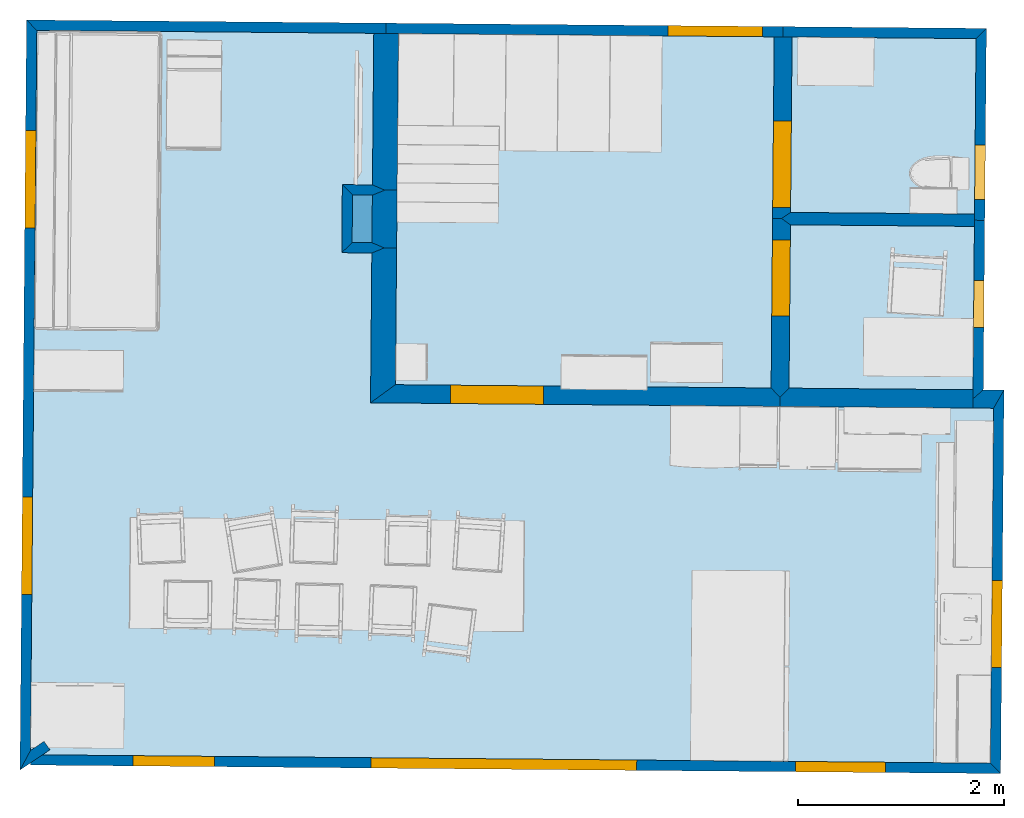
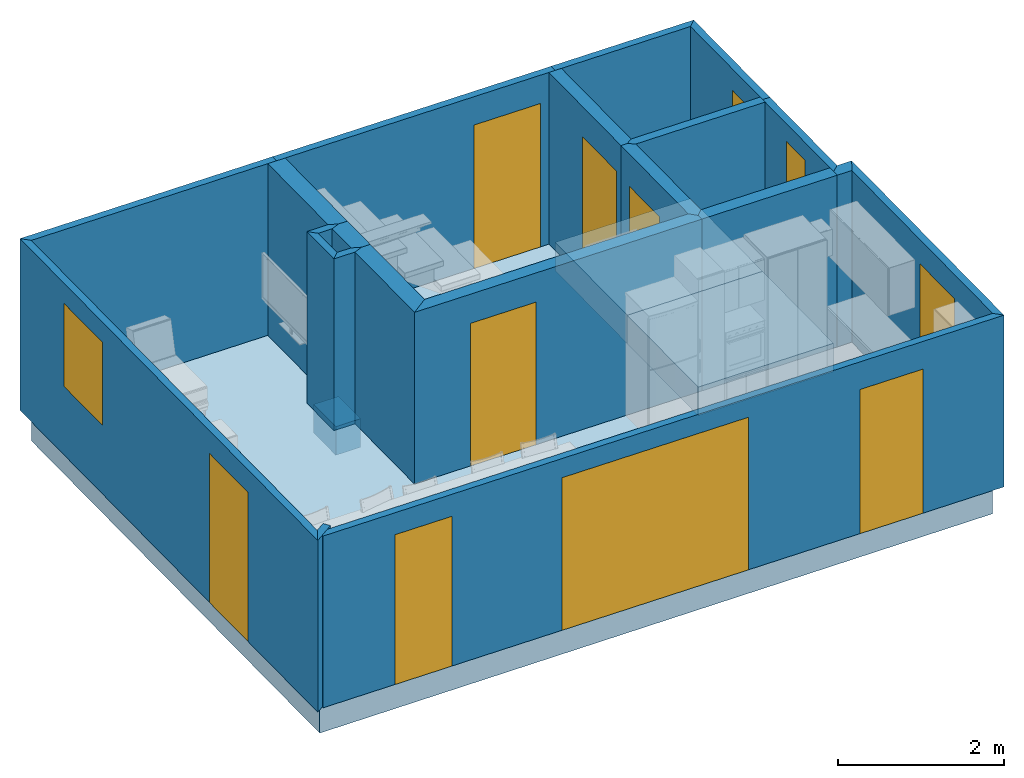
# One storey, part 1 of 7: 21 walls, 8 doors, 5 slabs, 4 windows, 12 openings.
"""IFC4 building model written with IfcOpenShell, lengths in metres."""

from ifc_helpers import new_model, si_unit, direction, frame, origin_with_axes, place, context, subcontext, project, spatial, polyline, outline, extrude, type_object, element, fill, save


model = new_model("IFC4")

# Units and contexts
model_context = context("Model", 3, precision=1e-05, world=origin_with_axes(), true_north=direction((-0.077, 0.997, 0.0)))
body_context = subcontext(model_context, "Body", "Model", "MODEL_VIEW")
ifc_project = project(units=[si_unit("AREAUNIT", "SQUARE_METRE"), si_unit("LENGTHUNIT", "METRE")], contexts=[model_context])

# Site, building, storey
site_placement = place(None, origin_with_axes())
site = spatial("IfcSite", under=ifc_project, at=site_placement, Name="Site", CompositionType="ELEMENT")
building_placement = place(site_placement, origin_with_axes())
building = spatial("IfcBuilding", under=site, at=building_placement, Name="Building", CompositionType="ELEMENT")
storey_placement = place(building_placement, frame((0.0, 0.0, 2.86083245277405), z_axis=(0.0, 0.0, 1.0), x_axis=(1.0, 0.0, 0.0)))
storey = spatial("IfcBuildingStorey", under=building, at=storey_placement, Name="Story 1", CompositionType="ELEMENT", Elevation=2.86083245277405)

# Slabs
slab_type_1 = type_object("IfcSlabType", Name="Metaroom Slab", PredefinedType="FLOOR")
slab_1_placement = place(storey_placement, frame((1.41507131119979, -0.220794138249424, 0.0), z_axis=(0.0, 0.0, 1.0), x_axis=(1.0, 0.0, 0.0)))
element("IfcSlab", 1, at=slab_1_placement, inside=storey, type_object=slab_type_1, Name="Floor", PredefinedType="FLOOR", context=body_context, shape_type="SweptSolid", body=[
    extrude(outline(polyline([(0.0, 0.0), (0.00359290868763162, 0.539988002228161), (-0.341366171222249, 0.547283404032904), (-0.344992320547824, 0.00229546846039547), (0.0, 0.0)])), origin_with_axes(), (0.0, 0.0, -1.0), 0.421469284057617),
])
slab_type_2 = type_object("IfcSlabType", Name="Metaroom Slab", PredefinedType="FLOOR")
slab_2_placement = place(storey_placement, frame((7.15088241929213, -1.70053368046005, 0.0), z_axis=(0.0, 0.0, 1.0), x_axis=(1.0, 0.0, 0.0)))
element("IfcSlab", 2, at=slab_2_placement, inside=storey, type_object=slab_type_2, Name="Floor", PredefinedType="FLOOR", context=body_context, shape_type="SweptSolid", body=[
    extrude(outline(polyline([(0.0, 0.0), (-1.87724575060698, 0.0164927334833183), (-1.86196827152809, 1.75542216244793), (0.0152769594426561, 1.73892954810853), (0.0, 0.0)])), origin_with_axes(), (0.0, 0.0, -1.0), 0.421469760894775),
])
slab_type_3 = type_object("IfcSlabType", Name="Metaroom Slab", PredefinedType="FLOOR")
slab_3_placement = place(storey_placement, frame((-2.020659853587, -5.18304387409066, 0.0), z_axis=(0.0, 0.0, 1.0), x_axis=(1.0, 0.0, 0.0)))
element("IfcSlab", 3, at=slab_3_placement, inside=storey, type_object=slab_type_3, Name="Floor", PredefinedType="FLOOR", context=body_context, shape_type="SweptSolid", body=[
    extrude(outline(polyline([(0.0, 0.0), (0.0621035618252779, 7.06900282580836), (3.46170130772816, 7.03913605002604), (3.44830367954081, 5.51416778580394), (3.08520798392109, 5.51735784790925), (3.08026745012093, 4.95501735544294), (3.44336344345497, 4.95182727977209), (3.43089771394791, 3.53294421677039), (7.29429689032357, 3.4990026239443), (9.17154227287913, 3.48251019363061), (9.37355731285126, 3.48073588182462), (9.34243122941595, -0.0621608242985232), (0.0, 0.0)])), origin_with_axes(), (0.0, 0.0, -1.0), 0.421469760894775),
])
slab_type_4 = type_object("IfcSlabType", Name="Metaroom Slab", PredefinedType="FLOOR")
slab_4_placement = place(storey_placement, frame((7.18168592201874, 1.80565772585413, 0.0), z_axis=(0.0, 0.0, 1.0), x_axis=(1.0, 0.0, 0.0)))
element("IfcSlab", 4, at=slab_4_placement, inside=storey, type_object=slab_type_4, Name="Floor", PredefinedType="FLOOR", context=body_context, shape_type="SweptSolid", body=[
    extrude(outline(polyline([(0.0, 0.0), (-0.0155265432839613, -1.76726185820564), (-1.8927717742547, -1.75076924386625), (-1.87724553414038, 0.0164922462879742), (0.0, 0.0)])), origin_with_axes(), (0.0, 0.0, -1.0), 0.421469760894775),
])
slab_type_5 = type_object("IfcSlabType", Name="Metaroom Slab", PredefinedType="FLOOR")
slab_5_placement = place(storey_placement, frame((5.27363703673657, -1.68404125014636, 0.0), z_axis=(0.0, 0.0, 1.0), x_axis=(1.0, 0.0, 0.0)))
element("IfcSlab", 5, at=slab_5_placement, inside=storey, type_object=slab_type_5, Name="Floor", PredefinedType="FLOOR", context=body_context, shape_type="SweptSolid", body=[
    extrude(outline(polyline([(0.0, 0.0), (-3.86339891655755, 0.0339415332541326), (-3.8509334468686, 1.45282465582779), (-3.8459930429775, 2.01516517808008), (-3.8325955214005, 3.54013306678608), (0.0308034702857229, 3.5061917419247), (0.0152771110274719, 1.73892973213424), (0.0, 0.0)])), origin_with_axes(), (0.0, 0.0, -1.0), 0.421469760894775),
])

# Walls
wall_type_1 = type_object("IfcWallType", Name="Metaroom Wall", PredefinedType="STANDARD")
wall_1_placement = place(storey_placement, frame((1.30689226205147, 0.282182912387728, 0.0), z_axis=(0.0, 0.0, 1.0), x_axis=(1.0, 0.0, 0.0)))
element("IfcWallStandardCase", 6, at=wall_1_placement, inside=storey, type_object=wall_type_1, Name="Wall", context=body_context, shape_type="SweptSolid", body=[
    extrude(outline(polyline([(0.0, 0.0), (0.120751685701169, 0.0489410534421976), (0.241064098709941, 0.0478840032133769), (0.236123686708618, -0.514456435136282), (0.115811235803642, -0.513399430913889), (-0.00406193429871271, -0.46234440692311), (0.0, 0.0)])), origin_with_axes(), (0.0, 0.0, 1.0), 2.52995562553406),
])
wall_type_2 = type_object("IfcWallType", Name="Metaroom Wall", PredefinedType="STANDARD")
wall_2_placement = place(storey_placement, frame((1.11410686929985, 0.283876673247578, 0.0), z_axis=(0.0, 0.0, 1.0), x_axis=(1.0, 0.0, 0.0)))
element("IfcWallStandardCase", 7, at=wall_2_placement, inside=storey, type_object=wall_type_2, Name="Wall", context=body_context, shape_type="SweptSolid", body=[
    extrude(outline(polyline([(0.0, 0.0), (-0.0991176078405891, 0.100874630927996), (0.193663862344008, 0.0983023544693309), (0.31353707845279, 0.0472472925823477), (0.192785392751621, -0.00169376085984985), (0.0, 0.0)])), origin_with_axes(), (0.0, 0.0, 1.0), 2.52995562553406),
])
wall_type_3 = type_object("IfcWallType", Name="Metaroom Wall", PredefinedType="STANDARD")
wall_3_placement = place(storey_placement, frame((1.00917028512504, -0.277585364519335, 0.0), z_axis=(0.0, 0.0, 1.0), x_axis=(1.0, 0.0, 0.0)))
element("IfcWallStandardCase", 8, at=wall_3_placement, inside=storey, type_object=wall_type_3, Name="Wall", context=body_context, shape_type="SweptSolid", body=[
    extrude(outline(polyline([(0.0, 0.0), (0.100874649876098, 0.099117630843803), (0.293660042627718, 0.0974238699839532), (0.413533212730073, 0.0463688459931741), (0.292781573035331, -0.0025722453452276), (0.0, 0.0)])), origin_with_axes(), (0.0, 0.0, 1.0), 2.52995562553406),
])
wall_type_4 = type_object("IfcWallType", Name="Metaroom Wall", PredefinedType="STANDARD")
wall_4_placement = place(storey_placement, frame((1.01498926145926, 0.384751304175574, 0.0), z_axis=(0.0, 0.0, 1.0), x_axis=(1.0, 0.0, 0.0)))
element("IfcWallStandardCase", 9, at=wall_4_placement, inside=storey, type_object=wall_type_4, Name="Wall", context=body_context, shape_type="SweptSolid", body=[
    extrude(outline(polyline([(0.0, 0.0), (0.0991176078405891, -0.100874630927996), (0.0950556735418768, -0.563219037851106), (-0.00581897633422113, -0.662336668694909), (0.0, 0.0)])), origin_with_axes(), (0.0, 0.0, 1.0), 2.52995562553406),
])

# Wall, opening, window
wall_type_5 = type_object("IfcWallType", Name="Metaroom Wall", PredefinedType="STANDARD")
wall_5_placement = place(storey_placement, frame((7.16562975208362, -0.0219311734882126, 0.0), z_axis=(0.0, 0.0, 1.0), x_axis=(1.0, 0.0, 0.0)))
wall_5 = element("IfcWallStandardCase", 10, at=wall_5_placement, inside=storey, type_object=wall_type_5, Name="Wall", context=body_context, shape_type="SweptSolid", body=[
    extrude(outline(polyline([(0.0, 0.0), (0.000529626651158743, 0.0603270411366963), (0.100525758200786, 0.0594484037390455), (0.0860331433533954, -1.59021256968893), (-0.0147473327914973, -1.67860250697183), (-0.0139631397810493, -1.58933411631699), (0.0, 0.0)])), origin_with_axes(), (0.0, 0.0, 1.0), 2.52995562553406),
])
opening_1_placement = place(wall_5_placement, frame((-0.00461401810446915, -0.525186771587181, 1.23602041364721), z_axis=(0.0, 0.0, 1.0), x_axis=(-0.00878509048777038, -0.999961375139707, 0.0)))
opening_1 = element("IfcOpeningElement", 11, at=opening_1_placement, cuts=wall_5, Name="Metaroom Opening", ObjectType="OPENING", context=body_context, shape_type="SweptSolid", body=[
    extrude(outline(polyline([(2.77555756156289e-17, 0.0), (0.458121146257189, 0.0), (0.458121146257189, 1.03326327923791), (2.77555756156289e-17, 1.03326327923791), (2.77555756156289e-17, 0.0)])), frame((0.0, 0.0, 0.0), z_axis=(0.0, -1.0, 0.0), x_axis=(1.0, 0.0, 0.0)), (0.0, 0.0, -1.0), 0.100099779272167),
])
window_type_1 = type_object("IfcWindowType", Name="Metaroom Window area", PredefinedType="WINDOW")
window_1_placement = place(opening_1_placement, origin_with_axes())
window_1 = element("IfcWindow", 12, at=window_1_placement, inside=storey, type_object=window_type_1, Name="Metaroom Window area", OverallHeight=1.5, OverallWidth=0.5, context=body_context, shape_type="SweptSolid", body=[
    extrude(outline(polyline([(-1.38777878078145e-17, 0.0), (-0.458121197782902, 0.0), (-0.458121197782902, 1.03326320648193), (-1.38777878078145e-17, 1.03326320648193), (-1.38777878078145e-17, 0.0)])), frame((0.0, 0.0999997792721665, 0.0), z_axis=(0.0, 1.0, 0.0), x_axis=(-1.0, 0.0, 0.0)), (0.0, 0.0, -1.0), 0.0999997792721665),
])
fill(opening_1, window_1)

# Walls
wall_type_6 = type_object("IfcWallType", Name="Metaroom Wall", PredefinedType="STANDARD")
wall_6_placement = place(storey_placement, frame((5.37554279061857, -0.00620450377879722, 0.0), z_axis=(0.0, 0.0, 1.0), x_axis=(1.0, 0.0, 0.0)))
element("IfcWallStandardCase", 13, at=wall_6_placement, inside=storey, type_object=wall_type_6, Name="Wall", context=body_context, shape_type="SweptSolid", body=[
    extrude(outline(polyline([(0.0, 0.0), (-0.0866286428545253, 0.0610929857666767), (0.00105977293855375, 0.12065396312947), (1.7911465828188, 0.104927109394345), (1.79061658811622, 0.0446003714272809), (1.79008696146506, -0.0157266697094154), (0.0, 0.0)])), origin_with_axes(), (0.0, 0.0, 1.0), 2.52995562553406),
])
wall_type_7 = type_object("IfcWallType", Name="Metaroom Wall", PredefinedType="STANDARD")
wall_7_placement = place(storey_placement, frame((5.2728524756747, -1.77330933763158, 0.0), z_axis=(0.0, 0.0, 1.0), x_axis=(1.0, 0.0, 0.0)))
element("IfcWallStandardCase", 14, at=wall_7_placement, inside=storey, type_object=wall_type_7, Name="Wall", context=body_context, shape_type="SweptSolid", body=[
    extrude(outline(polyline([(0.0, 0.0), (0.000784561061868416, 0.0892680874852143), (0.0887271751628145, 0.177770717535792), (1.87881413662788, 0.162044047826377), (1.87802994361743, 0.0727756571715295), (1.87724575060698, -0.0164927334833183), (0.0, 0.0)])), origin_with_axes(), (0.0, 0.0, 1.0), 2.52995562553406),
])

# Wall, opening, door
wall_type_8 = type_object("IfcWallType", Name="Metaroom Wall", PredefinedType="STANDARD")
wall_8_placement = place(storey_placement, frame((5.20175591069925, 0.0556540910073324, 0.0), z_axis=(0.0, 0.0, 1.0), x_axis=(1.0, 0.0, 0.0)))
wall_8 = element("IfcWallStandardCase", 15, at=wall_8_placement, inside=storey, type_object=wall_type_8, Name="Wall", context=body_context, shape_type="SweptSolid", body=[
    extrude(outline(polyline([(0.0, 0.0), (0.0871582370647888, -0.000765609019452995), (0.173786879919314, -0.0618585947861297), (0.159823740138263, -1.65119271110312), (0.0718811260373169, -1.7396953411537), (-0.0144931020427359, -1.64966118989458), (0.0, 0.0)])), origin_with_axes(), (0.0, 0.0, 1.0), 2.52995562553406),
])
opening_2_placement = place(wall_8_placement, frame((-0.00184058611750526, -0.209506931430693, 0.0), z_axis=(0.0, 0.0, 1.0), x_axis=(-0.00878513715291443, -0.999961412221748, 0.0)))
opening_2 = element("IfcOpeningElement", 16, at=opening_2_placement, cuts=wall_8, Name="Metaroom Opening", ObjectType="OPENING", context=body_context, shape_type="SweptSolid", body=[
    extrude(outline(polyline([(6.93889390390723e-18, 0.0), (0.740227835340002, 0.0), (0.740227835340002, 2.05555700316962), (6.93889390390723e-18, 2.05555700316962), (6.93889390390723e-18, 0.0)])), frame((0.0, 0.0, 0.0), z_axis=(0.0, -1.0, 0.0), x_axis=(1.0, 0.0, 0.0)), (0.0, 0.0, -1.0), 0.174423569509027),
])
door_type_1 = type_object("IfcDoorType", Name="Metaroom Door area", PredefinedType="DOOR")
door_1_placement = place(opening_2_placement, origin_with_axes())
door_1 = element("IfcDoor", 17, at=door_1_placement, inside=storey, type_object=door_type_1, Name="Metaroom Door area", OverallHeight=2.05555605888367, OverallWidth=0.740227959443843, context=body_context, shape_type="SweptSolid", body=[
    extrude(outline(polyline([(-6.93889390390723e-18, 0.0), (-0.740227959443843, 0.0), (-0.740227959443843, 2.05555701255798), (-6.93889390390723e-18, 2.05555701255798), (-6.93889390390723e-18, 0.0)])), frame((0.0, 0.174323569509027, 0.0), z_axis=(0.0, 1.0, 0.0), x_axis=(-1.0, 0.0, 0.0)), (0.0, 0.0, -1.0), 0.174323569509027),
])
fill(opening_2, door_1)

# Wall
wall_type_9 = type_object("IfcWallType", Name="Metaroom Wall", PredefinedType="STANDARD")
wall_9_placement = place(storey_placement, frame((-2.12179674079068, -5.31203737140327, 0.0), z_axis=(0.0, 0.0, 1.0), x_axis=(1.0, 0.0, 0.0)))
element("IfcWallStandardCase", 18, at=wall_9_placement, inside=storey, type_object=wall_type_9, Name="Wall", context=body_context, shape_type="SweptSolid", body=[
    extrude(outline(polyline([(0.0, 0.0), (0.101670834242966, 0.189767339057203), (0.234348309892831, 0.279737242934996), (0.290472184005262, 0.196971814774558), (0.0, 0.0)])), origin_with_axes(), (0.0, 0.0, 1.0), 2.52995562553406),
])

# Wall, opening, door
wall_type_10 = type_object("IfcWallType", Name="Metaroom Wall", PredefinedType="STANDARD")
wall_10_placement = place(storey_placement, frame((1.28914123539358, -1.73831102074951, 0.0), z_axis=(0.0, 0.0, 1.0), x_axis=(1.0, 0.0, 0.0)))
wall_10 = element("IfcWallStandardCase", 19, at=wall_10_placement, inside=storey, type_object=wall_type_10, Name="Wall", context=body_context, shape_type="SweptSolid", body=[
    extrude(outline(polyline([(0.0, 0.0), (0.24219350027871, 0.176422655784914), (3.89812157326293, 0.144303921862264), (3.98449580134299, 0.054269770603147), (3.98371124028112, -0.0349983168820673), (0.0, 0.0)])), origin_with_axes(), (0.0, 0.0, 1.0), 2.52995562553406),
])
opening_3_placement = place(wall_10_placement, frame((0.777083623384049, -0.00682683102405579, 0.0), z_axis=(0.0, 0.0, 1.0), x_axis=(0.999961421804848, -0.00878505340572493, 0.0)))
opening_3 = element("IfcOpeningElement", 20, at=opening_3_placement, cuts=wall_10, Name="Metaroom Opening", ObjectType="OPENING", context=body_context, shape_type="SweptSolid", body=[
    extrude(outline(polyline([(-4.44089209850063e-16, 0.0), (0.906086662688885, 0.0), (0.906086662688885, 2.10004301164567), (-4.44089209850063e-16, 2.10004301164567), (-4.44089209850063e-16, 0.0)])), frame((0.0, 0.0, 0.0), z_axis=(0.0, -1.0, 0.0), x_axis=(1.0, 0.0, 0.0)), (0.0, 0.0, -1.0), 0.178643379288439),
])
door_type_2 = type_object("IfcDoorType", Name="Metaroom Door area", PredefinedType="DOOR")
door_2_placement = place(opening_3_placement, origin_with_axes())
door_2 = element("IfcDoor", 21, at=door_2_placement, inside=storey, type_object=door_type_2, Name="Metaroom Door area", OverallHeight=2.10004305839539, OverallWidth=0.906086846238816, context=body_context, shape_type="SweptSolid", body=[
    extrude(outline(polyline([(0.0, 0.0), (-0.906086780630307, 0.0), (-0.906086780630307, 2.10004305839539), (0.0, 2.10004305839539), (0.0, 0.0)])), frame((0.0, 0.178543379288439, 0.0), z_axis=(0.0, 1.0, 0.0), x_axis=(-1.0, 0.0, 0.0)), (0.0, 0.0, -1.0), 0.178543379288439),
])
fill(opening_3, door_2)

# Walls
wall_type_11 = type_object("IfcWallType", Name="Metaroom Wall", PredefinedType="STANDARD")
wall_11_placement = place(storey_placement, frame((7.15009822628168, -1.7898020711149, 0.0), z_axis=(0.0, 0.0, 1.0), x_axis=(1.0, 0.0, 0.0)))
element("IfcWallStandardCase", 22, at=wall_11_placement, inside=storey, type_object=wall_type_11, Name="Wall", context=body_context, shape_type="SweptSolid", body=[
    extrude(outline(polyline([(0.0, 0.0), (0.000784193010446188, 0.0892683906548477), (0.101564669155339, 0.177658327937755), (0.303579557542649, 0.17588383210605), (0.202014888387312, -0.00177449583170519), (0.0, 0.0)])), origin_with_axes(), (0.0, 0.0, 1.0), 2.52995562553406),
])
wall_type_12 = type_object("IfcWallType", Name="Metaroom Wall", PredefinedType="STANDARD")
wall_12_placement = place(storey_placement, frame((1.32072904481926, 1.85714891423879, 0.0), z_axis=(0.0, 0.0, 1.0), x_axis=(1.0, 0.0, 0.0)))
element("IfcWallStandardCase", 23, at=wall_12_placement, inside=storey, type_object=wall_type_12, Name="Wall", context=body_context, shape_type="SweptSolid", body=[
    extrude(outline(polyline([(0.0, 0.0), (0.120312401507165, -0.00105704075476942), (0.240624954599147, -0.00211389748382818), (0.227227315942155, -1.52708199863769), (0.106914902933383, -1.52602494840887), (-0.0129583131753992, -1.47496988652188), (0.0, 0.0)])), origin_with_axes(), (0.0, 0.0, 1.0), 2.52995562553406),
])

# Wall, opening, window
wall_type_13 = type_object("IfcWallType", Name="Metaroom Wall", PredefinedType="STANDARD")
wall_13_placement = place(storey_placement, frame((7.35211311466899, -1.7915765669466, 0.0), z_axis=(0.0, 0.0, 1.0), x_axis=(1.0, 0.0, 0.0)))
wall_13 = element("IfcWallStandardCase", 24, at=wall_13_placement, inside=storey, type_object=wall_type_13, Name="Wall", context=body_context, shape_type="SweptSolid", body=[
    extrude(outline(polyline([(0.0, 0.0), (0.101564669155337, 0.177658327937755), (0.0687757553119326, -3.55450290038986), (-0.0303418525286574, -3.45362826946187), (0.0, 0.0)])), origin_with_axes(), (0.0, 0.0, 1.0), 2.52995562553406),
])
opening_4_placement = place(wall_13_placement, frame((-0.01472561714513, -1.6761281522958, 1.06846022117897), z_axis=(0.0, 0.0, 1.0), x_axis=(-0.00878513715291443, -0.999961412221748, 0.0)))
opening_4 = element("IfcOpeningElement", 25, at=opening_4_placement, cuts=wall_13, Name="Metaroom Opening", ObjectType="OPENING", context=body_context, shape_type="SweptSolid", body=[
    extrude(outline(polyline([(1.11022302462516e-16, 0.0), (0.844886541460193, 0.0), (0.844886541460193, 1.10469340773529), (1.11022302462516e-16, 1.10469340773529), (1.11022302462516e-16, 0.0)])), frame((0.0, 0.0, 0.0), z_axis=(0.0, -1.0, 0.0), x_axis=(1.0, 0.0, 0.0)), (0.0, 0.0, -1.0), 0.100099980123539),
])
window_type_2 = type_object("IfcWindowType", Name="Metaroom Window area", PredefinedType="WINDOW")
window_2_placement = place(opening_4_placement, origin_with_axes())
window_2 = element("IfcWindow", 26, at=window_2_placement, inside=storey, type_object=window_type_2, Name="Metaroom Window area", OverallHeight=1.5, OverallWidth=0.5, context=body_context, shape_type="SweptSolid", body=[
    extrude(outline(polyline([(2.77555756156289e-17, 0.0), (-0.844886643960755, 0.0), (-0.844886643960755, 1.10469341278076), (2.77555756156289e-17, 1.10469341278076), (2.77555756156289e-17, 0.0)])), frame((0.0, 0.0999999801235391, 0.0), z_axis=(0.0, 1.0, 0.0), x_axis=(-1.0, 0.0, 0.0)), (0.0, 0.0, -1.0), 0.0999999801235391),
])
fill(opening_4, window_2)

# Wall, openings, door, window
wall_type_14 = type_object("IfcWallType", Name="Metaroom Wall", PredefinedType="STANDARD")
wall_14_placement = place(storey_placement, frame((-2.05767371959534, 1.98683380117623, 0.0), z_axis=(0.0, 0.0, 1.0), x_axis=(1.0, 0.0, 0.0)))
wall_14 = element("IfcWallStandardCase", 27, at=wall_14_placement, inside=storey, type_object=wall_type_14, Name="Wall", context=body_context, shape_type="SweptSolid", body=[
    extrude(outline(polyline([(0.0, 0.0), (0.0991176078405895, -0.100874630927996), (0.0375478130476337, -7.10910383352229), (-0.0641230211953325, -7.2988711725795), (0.0, 0.0)])), origin_with_axes(), (0.0, 0.0, 1.0), 2.52995562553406),
])
opening_5_placement = place(wall_14_placement, frame((0.0508818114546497, -5.59135571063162, 0.0), z_axis=(0.0, 0.0, 1.0), x_axis=(0.00878500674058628, 0.999961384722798, 0.0)))
opening_5 = element("IfcOpeningElement", 28, at=opening_5_placement, cuts=wall_14, Name="Metaroom Opening", ObjectType="OPENING", context=body_context, shape_type="SweptSolid", body=[
    extrude(outline(polyline([(-7.28583859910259e-17, 0.0), (0.94779187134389, 0.0), (0.94779187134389, 2.19479930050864), (-7.28583859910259e-17, 2.19479930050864), (-7.28583859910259e-17, 0.0)])), frame((0.0, 0.0, 0.0), z_axis=(0.0, -1.0, 0.0), x_axis=(1.0, 0.0, 0.0)), (0.0, 0.0, -1.0), 0.100099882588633),
])
opening_6_placement = place(wall_14_placement, frame((0.0822000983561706, -2.02651835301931, 1.00922828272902), z_axis=(0.0, 0.0, 1.0), x_axis=(0.00878500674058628, 0.999961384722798, 0.0)))
opening_6 = element("IfcOpeningElement", 29, at=opening_6_placement, cuts=wall_14, Name="Metaroom Opening", ObjectType="OPENING", context=body_context, shape_type="SweptSolid", body=[
    extrude(outline(polyline([(-3.46944695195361e-18, 0.0), (0.951704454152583, 0.0), (0.951704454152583, 1.22256166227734), (-3.46944695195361e-18, 1.22256166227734), (-3.46944695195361e-18, 0.0)])), frame((0.0, 0.0, 0.0), z_axis=(0.0, -1.0, 0.0), x_axis=(1.0, 0.0, 0.0)), (0.0, 0.0, -1.0), 0.100099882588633),
])
door_type_3 = type_object("IfcDoorType", Name="Metaroom Door area", PredefinedType="DOOR")
door_3_placement = place(opening_5_placement, origin_with_axes())
door_3 = element("IfcDoor", 30, at=door_3_placement, inside=storey, type_object=door_type_3, Name="Metaroom Door area", OverallHeight=2.19479918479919, OverallWidth=0.947791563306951, context=body_context, shape_type="SweptSolid", body=[
    extrude(outline(polyline([(-2.04697370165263e-16, 0.0), (-0.947791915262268, 0.0), (-0.947791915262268, 2.19479918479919), (-2.04697370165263e-16, 2.19479918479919), (-2.04697370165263e-16, 0.0)])), frame((0.0, 0.0999998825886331, 0.0), z_axis=(0.0, 1.0, 0.0), x_axis=(-1.0, 0.0, 0.0)), (0.0, 0.0, -1.0), 0.0999998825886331),
])
fill(opening_5, door_3)
window_type_3 = type_object("IfcWindowType", Name="Metaroom Window area", PredefinedType="WINDOW")
window_3_placement = place(opening_6_placement, origin_with_axes())
window_3 = element("IfcWindow", 31, at=window_3_placement, inside=storey, type_object=window_type_3, Name="Metaroom Window area", OverallHeight=1.5, OverallWidth=0.5, context=body_context, shape_type="SweptSolid", body=[
    extrude(outline(polyline([(0.0, 0.0), (-0.951704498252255, 0.0), (-0.951704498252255, 1.2225615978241), (0.0, 1.2225615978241), (0.0, 0.0)])), frame((0.0, 0.0999998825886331, 0.0), z_axis=(0.0, 1.0, 0.0), x_axis=(-1.0, 0.0, 0.0)), (0.0, 0.0, -1.0), 0.0999998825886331),
])
fill(opening_6, window_3)

# Wall, openings, doors
wall_type_15 = type_object("IfcWallType", Name="Metaroom Wall", PredefinedType="STANDARD")
wall_15_placement = place(storey_placement, frame((-2.01844422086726, -5.26315052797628, 0.0), z_axis=(0.0, 0.0, 1.0), x_axis=(1.0, 0.0, 0.0)))
wall_15 = element("IfcWallStandardCase", 32, at=wall_15_placement, inside=storey, type_object=wall_type_15, Name="Wall", context=body_context, shape_type="SweptSolid", body=[
    extrude(outline(polyline([(0.0, 0.0), (0.000878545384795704, 0.0999962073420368), (9.34021548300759, 0.0179456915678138), (9.43933309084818, -0.0829289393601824), (0.0, 0.0)])), origin_with_axes(), (0.0, 0.0, 1.0), 2.52995562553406),
])
opening_7_placement = place(wall_15_placement, frame((1.78953550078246, 0.0842819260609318, 0.0), z_axis=(0.0, 0.0, 1.0), x_axis=(-0.999961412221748, 0.00878513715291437, 0.0)))
opening_7 = element("IfcOpeningElement", 33, at=opening_7_placement, cuts=wall_15, Name="Metaroom Opening", ObjectType="OPENING", context=body_context, shape_type="SweptSolid", body=[
    extrude(outline(polyline([(0.0, 0.0), (0.79262995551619, 0.0), (0.79262995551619, 2.20570062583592), (0.0, 2.20570062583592), (0.0, 0.0)])), frame((0.0, 0.0, 0.0), z_axis=(0.0, -1.0, 0.0), x_axis=(1.0, 0.0, 0.0)), (0.0, 0.0, -1.0), 0.100099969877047),
])
opening_8_placement = place(wall_15_placement, frame((8.31804141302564, 0.0269259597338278, 0.0), z_axis=(0.0, 0.0, 1.0), x_axis=(-0.999961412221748, 0.00878513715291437, 0.0)))
opening_8 = element("IfcOpeningElement", 34, at=opening_8_placement, cuts=wall_15, Name="Metaroom Opening", ObjectType="OPENING", context=body_context, shape_type="SweptSolid", body=[
    extrude(outline(polyline([(-8.88178419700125e-16, 0.0), (0.876066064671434, 0.0), (0.876066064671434, 2.12236856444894), (-8.88178419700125e-16, 2.12236856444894), (-8.88178419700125e-16, 0.0)])), frame((0.0, 0.0, 0.0), z_axis=(0.0, -1.0, 0.0), x_axis=(1.0, 0.0, 0.0)), (0.0, 0.0, -1.0), 0.100099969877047),
])
opening_9_placement = place(wall_15_placement, frame((5.89853336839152, 0.0481824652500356, 0.0), z_axis=(0.0, 0.0, 1.0), x_axis=(-0.999961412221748, 0.00878513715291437, 0.0)))
opening_9 = element("IfcOpeningElement", 35, at=opening_9_placement, cuts=wall_15, Name="Metaroom Opening", ObjectType="OPENING", context=body_context, shape_type="SweptSolid", body=[
    extrude(outline(polyline([(0.0, 0.0), (2.58647854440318, 0.0), (2.58647854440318, 2.24736570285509), (0.0, 2.24736570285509), (0.0, 0.0)])), frame((0.0, 0.0, 0.0), z_axis=(0.0, -1.0, 0.0), x_axis=(1.0, 0.0, 0.0)), (0.0, 0.0, -1.0), 0.100099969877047),
])
door_type_4 = type_object("IfcDoorType", Name="Metaroom Door area", PredefinedType="DOOR")
door_4_placement = place(opening_7_placement, origin_with_axes())
door_4 = element("IfcDoor", 36, at=door_4_placement, inside=storey, type_object=door_type_4, Name="Metaroom Door area", OverallHeight=2.20570063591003, OverallWidth=0.792629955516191, context=body_context, shape_type="SweptSolid", body=[
    extrude(outline(polyline([(0.0, 0.0), (-0.792629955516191, 0.0), (-0.792629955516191, 2.20570063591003), (0.0, 2.20570063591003), (0.0, 0.0)])), frame((0.0, 0.099999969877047, 0.0), z_axis=(0.0, 1.0, 0.0), x_axis=(-1.0, 0.0, 0.0)), (0.0, 0.0, -1.0), 0.099999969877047),
])
fill(opening_7, door_4)
door_type_5 = type_object("IfcDoorType", Name="Metaroom Door area", PredefinedType="DOOR")
door_5_placement = place(opening_8_placement, origin_with_axes())
door_5 = element("IfcDoor", 37, at=door_5_placement, inside=storey, type_object=door_type_5, Name="Metaroom Door area", OverallHeight=2.12236857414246, OverallWidth=0.876066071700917, context=body_context, shape_type="SweptSolid", body=[
    extrude(outline(polyline([(0.0, 0.0), (-0.876066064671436, 0.0), (-0.876066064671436, 2.12236857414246), (0.0, 2.12236857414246), (0.0, 0.0)])), frame((0.0, 0.099999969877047, 0.0), z_axis=(0.0, 1.0, 0.0), x_axis=(-1.0, 0.0, 0.0)), (0.0, 0.0, -1.0), 0.099999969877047),
])
fill(opening_8, door_5)
door_type_6 = type_object("IfcDoorType", Name="Metaroom Door area", PredefinedType="DOOR")
door_6_placement = place(opening_9_placement, origin_with_axes())
door_6 = element("IfcDoor", 38, at=door_6_placement, inside=storey, type_object=door_type_6, Name="Metaroom Door area", OverallHeight=2.24736571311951, OverallWidth=2.5864783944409, context=body_context, shape_type="SweptSolid", body=[
    extrude(outline(polyline([(0.0, 0.0), (-2.58647854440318, 0.0), (-2.58647854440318, 2.24736571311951), (0.0, 2.24736571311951), (0.0, 0.0)])), frame((0.0, 0.099999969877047, 0.0), z_axis=(0.0, 1.0, 0.0), x_axis=(-1.0, 0.0, 0.0)), (0.0, 0.0, -1.0), 0.099999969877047),
])
fill(opening_9, door_6)

# Walls
wall_type_16 = type_object("IfcWallType", Name="Metaroom Wall", PredefinedType="STANDARD")
wall_16_placement = place(storey_placement, frame((1.30195185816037, -0.280157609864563, 0.0), z_axis=(0.0, 0.0, 1.0), x_axis=(1.0, 0.0, 0.0)))
element("IfcWallStandardCase", 39, at=wall_16_placement, inside=storey, type_object=wall_type_16, Name="Wall", context=body_context, shape_type="SweptSolid", body=[
    extrude(outline(polyline([(0.0, 0.0), (0.120751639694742, 0.0489410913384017), (0.241064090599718, 0.0478840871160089), (0.22938287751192, -1.28173075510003), (-0.0128106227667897, -1.45815341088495), (0.0, 0.0)])), origin_with_axes(), (0.0, 0.0, 1.0), 2.52995562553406),
])
wall_type_17 = type_object("IfcWallType", Name="Metaroom Wall", PredefinedType="STANDARD")
wall_17_placement = place(storey_placement, frame((-1.95855611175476, 1.88595917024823, 0.0), z_axis=(0.0, 0.0, 1.0), x_axis=(1.0, 0.0, 0.0)))
element("IfcWallStandardCase", 40, at=wall_17_placement, inside=storey, type_object=wall_type_17, Name="Wall", context=body_context, shape_type="SweptSolid", body=[
    extrude(outline(polyline([(0.0, 0.0), (-0.0991176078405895, 0.100874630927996), (3.40047611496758, 0.0701289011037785), (3.39959755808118, -0.0298672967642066), (3.27928515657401, -0.0288102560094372), (0.0, 0.0)])), origin_with_axes(), (0.0, 0.0, 1.0), 2.52995562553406),
])

# Wall, opening, window
wall_type_18 = type_object("IfcWallType", Name="Metaroom Wall", PredefinedType="STANDARD")
wall_18_placement = place(storey_placement, frame((7.18168629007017, 1.80565742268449, 0.0), z_axis=(0.0, 0.0, 1.0), x_axis=(1.0, 0.0, 0.0)))
wall_18 = element("IfcWallStandardCase", 41, at=wall_18_placement, inside=storey, type_object=wall_type_18, Name="Wall", context=body_context, shape_type="SweptSolid", body=[
    extrude(outline(polyline([(0.0, 0.0), (0.100874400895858, 0.0991177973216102), (0.0844692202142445, -1.76814019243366), (-0.0155269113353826, -1.76726155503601), (-0.0149969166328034, -1.70693481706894), (0.0, 0.0)])), origin_with_axes(), (0.0, 0.0, 1.0), 2.52995562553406),
])
opening_10_placement = place(wall_18_placement, frame((-0.00908911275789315, -1.03450169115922, 1.23810605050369), z_axis=(0.0, 0.0, 1.0), x_axis=(-0.00878530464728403, -0.999961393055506, 0.0)))
opening_10 = element("IfcOpeningElement", 42, at=opening_10_placement, cuts=wall_18, Name="Metaroom Opening", ObjectType="OPENING", context=body_context, shape_type="SweptSolid", body=[
    extrude(outline(polyline([(2.77555756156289e-17, 0.0), (0.529041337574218, 0.0), (0.529041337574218, 0.975744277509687), (2.77555756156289e-17, 0.975744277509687), (2.77555756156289e-17, 0.0)])), frame((0.0, 0.0, 0.0), z_axis=(0.0, -1.0, 0.0), x_axis=(1.0, 0.0, 0.0)), (0.0, 0.0, -1.0), 0.100100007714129),
])
window_type_4 = type_object("IfcWindowType", Name="Metaroom Window area", PredefinedType="WINDOW")
window_4_placement = place(opening_10_placement, origin_with_axes())
window_4 = element("IfcWindow", 43, at=window_4_placement, inside=storey, type_object=window_type_4, Name="Metaroom Window area", OverallHeight=1.5, OverallWidth=0.5, context=body_context, shape_type="SweptSolid", body=[
    extrude(outline(polyline([(-1.38777878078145e-17, 0.0), (-0.529041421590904, 0.0), (-0.529041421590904, 0.975744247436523), (-1.38777878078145e-17, 0.975744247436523), (-1.38777878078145e-17, 0.0)])), frame((0.0, 0.100000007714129, 0.0), z_axis=(0.0, 1.0, 0.0), x_axis=(-1.0, 0.0, 0.0)), (0.0, 0.0, -1.0), 0.100000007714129),
])
fill(opening_10, window_4)

# Wall, opening, door
wall_type_19 = type_object("IfcWallType", Name="Metaroom Wall", PredefinedType="STANDARD")
wall_19_placement = place(storey_placement, frame((5.21728211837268, 1.82291591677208, 0.0), z_axis=(0.0, 0.0, 1.0), x_axis=(1.0, 0.0, 0.0)))
wall_19 = element("IfcWallStandardCase", 44, at=wall_19_placement, inside=storey, type_object=wall_type_19, Name="Wall", context=body_context, shape_type="SweptSolid", body=[
    extrude(outline(polyline([(0.0, 0.0), (0.0871585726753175, -0.000765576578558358), (0.174316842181, -0.00153152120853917), (0.159320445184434, -1.70846645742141), (0.0716320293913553, -1.7680274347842), (-0.0155262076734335, -1.76726182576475), (0.0, 0.0)])), origin_with_axes(), (0.0, 0.0, 1.0), 2.52995562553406),
])
opening_11_placement = place(wall_19_placement, frame((-0.00719507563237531, -0.818987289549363, 0.0), z_axis=(0.0, 0.0, 1.0), x_axis=(-0.00878522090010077, -0.999961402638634, 0.0)))
opening_11 = element("IfcOpeningElement", 45, at=opening_11_placement, cuts=wall_19, Name="Metaroom Opening", ObjectType="OPENING", context=body_context, shape_type="SweptSolid", body=[
    extrude(outline(polyline([(-4.16333634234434e-17, 0.0), (0.84005726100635, 0.0), (0.84005726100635, 2.08665492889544), (-4.16333634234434e-17, 2.08665492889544), (-4.16333634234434e-17, 0.0)])), frame((0.0, 0.0, 0.0), z_axis=(0.0, -1.0, 0.0), x_axis=(1.0, 0.0, 0.0)), (0.0, 0.0, -1.0), 0.174423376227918),
])
door_type_7 = type_object("IfcDoorType", Name="Metaroom Door area", PredefinedType="DOOR")
door_7_placement = place(opening_11_placement, origin_with_axes())
door_7 = element("IfcDoor", 46, at=door_7_placement, inside=storey, type_object=door_type_7, Name="Metaroom Door area", OverallHeight=2.08665490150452, OverallWidth=0.840057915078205, context=body_context, shape_type="SweptSolid", body=[
    extrude(outline(polyline([(6.93889390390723e-18, 0.0), (-0.84005739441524, 0.0), (-0.84005739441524, 2.08665490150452), (6.93889390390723e-18, 2.08665490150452), (6.93889390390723e-18, 0.0)])), frame((0.0, 0.174323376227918, 0.0), z_axis=(0.0, 1.0, 0.0), x_axis=(-1.0, 0.0, 0.0)), (0.0, 0.0, -1.0), 0.174323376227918),
])
fill(opening_11, door_7)

# Wall
wall_type_20 = type_object("IfcWallType", Name="Metaroom Wall", PredefinedType="STANDARD")
wall_20_placement = place(storey_placement, frame((5.39159896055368, 1.82138439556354, 0.0), z_axis=(0.0, 0.0, 1.0), x_axis=(1.0, 0.0, 0.0)))
element("IfcWallStandardCase", 47, at=wall_20_placement, inside=storey, type_object=wall_type_20, Name="Wall", context=body_context, shape_type="SweptSolid", body=[
    extrude(outline(polyline([(0.0, 0.0), (-0.0871582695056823, 0.000765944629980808), (-0.0862799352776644, 0.100761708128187), (1.89096173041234, 0.0833908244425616), (1.79008732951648, -0.0157269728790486), (0.0, 0.0)])), origin_with_axes(), (0.0, 0.0, 1.0), 2.52995562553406),
])

# Wall, opening, door
wall_type_21 = type_object("IfcWallType", Name="Metaroom Wall", PredefinedType="STANDARD")
wall_21_placement = place(storey_placement, frame((1.5613539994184, 1.85503501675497, 0.0), z_axis=(0.0, 0.0, 1.0), x_axis=(1.0, 0.0, 0.0)))
wall_21 = element("IfcWallStandardCase", 48, at=wall_21_placement, inside=storey, type_object=wall_type_21, Name="Wall", context=body_context, shape_type="SweptSolid", body=[
    extrude(outline(polyline([(0.0, 0.0), (-0.120312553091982, 0.00105685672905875), (-0.119433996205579, 0.101053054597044), (3.74396502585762, 0.0671110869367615), (3.7430866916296, -0.0328846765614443), (3.65592811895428, -0.032119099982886), (0.0, 0.0)])), origin_with_axes(), (0.0, 0.0, 1.0), 2.52995562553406),
])
opening_12_placement = place(wall_21_placement, frame((2.62078876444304, -0.0230248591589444, 0.0), z_axis=(0.0, 0.0, 1.0), x_axis=(0.999961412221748, -0.00878513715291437, 0.0)))
opening_12 = element("IfcOpeningElement", 49, at=opening_12_placement, cuts=wall_21, Name="Metaroom Opening", ObjectType="OPENING", context=body_context, shape_type="SweptSolid", body=[
    extrude(outline(polyline([(0.0, 0.0), (0.921123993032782, 0.0), (0.921123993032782, 2.11225484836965), (0.0, 2.11225484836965), (0.0, 0.0)])), frame((0.0, 0.0, 0.0), z_axis=(0.0, -1.0, 0.0), x_axis=(1.0, 0.0, 0.0)), (0.0, 0.0, -1.0), 0.100099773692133),
])
door_type_8 = type_object("IfcDoorType", Name="Metaroom Door area", PredefinedType="DOOR")
door_8_placement = place(opening_12_placement, origin_with_axes())
door_8 = element("IfcDoor", 50, at=door_8_placement, inside=storey, type_object=door_type_8, Name="Metaroom Door area", OverallHeight=2.11225485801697, OverallWidth=0.921123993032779, context=body_context, shape_type="SweptSolid", body=[
    extrude(outline(polyline([(-8.88178419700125e-16, 0.0), (-0.92112399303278, 0.0), (-0.92112399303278, 2.11225485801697), (-8.88178419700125e-16, 2.11225485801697), (-8.88178419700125e-16, 0.0)])), frame((0.0, 0.0999997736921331, 0.0), z_axis=(0.0, 1.0, 0.0), x_axis=(-1.0, 0.0, 0.0)), (0.0, 0.0, -1.0), 0.0999997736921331),
])
fill(opening_12, door_8)

save(model, "model.ifc")
